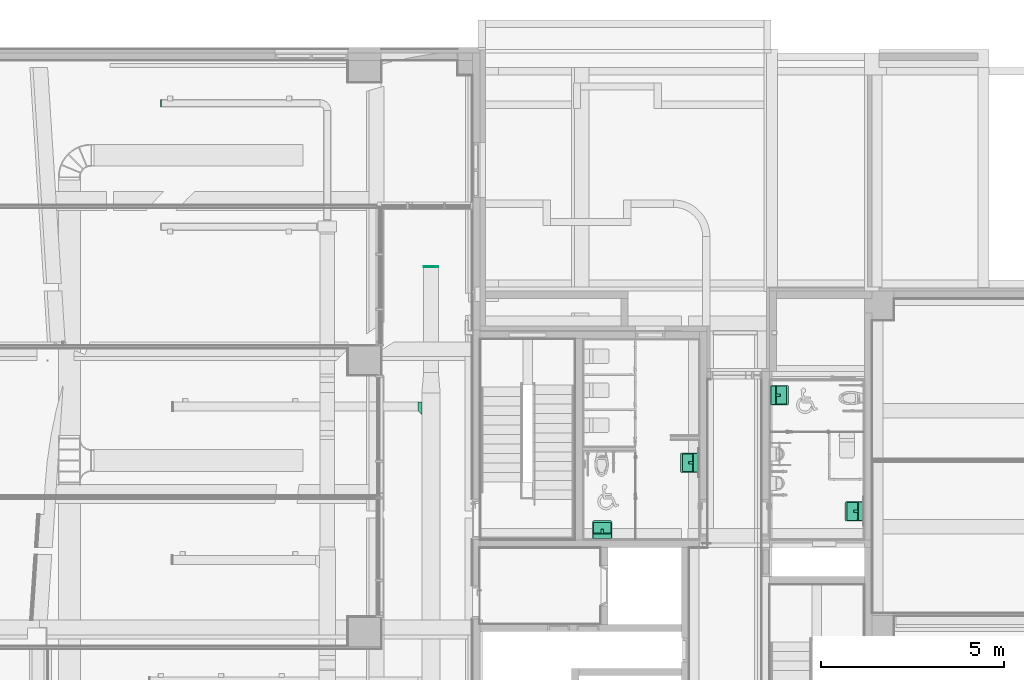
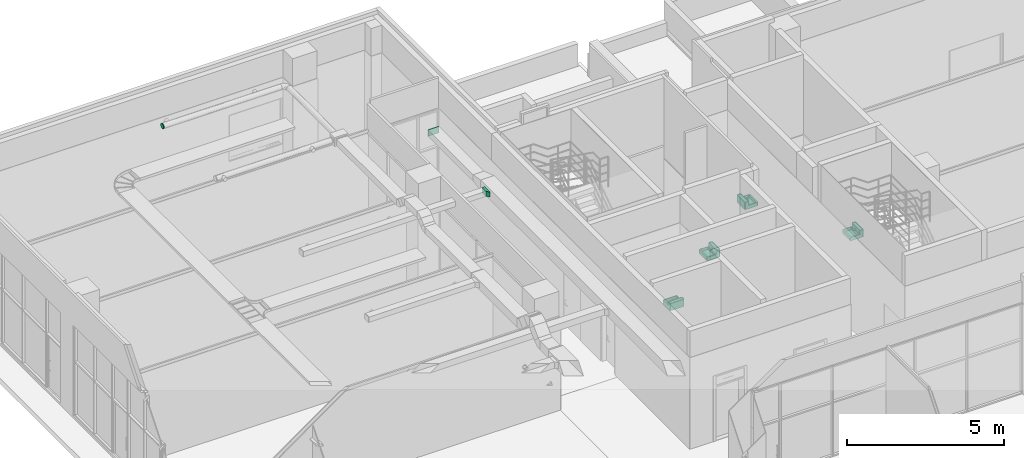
# One storey, part 91 of 100: 4 flow terminals, 3 flow fittings.
"""IFC2X3 building model written with IfcOpenShell, lengths in millimetres."""

from ifc_helpers import new_model, entity, si_unit, converted_unit, derived_unit, direction, frame, frame_2d, origin, place, context, subcontext, project, spatial, polyline, rectangle, circle, outline, extrude, faceted_brep, source, transform, mapped, material, material_list, type_object, type_shapes, element, save


model = new_model("IFC2X3")

# Units and contexts
model_context = context("Model", 3, precision=0.01, world=origin(), true_north=direction((6.123031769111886e-17, 1.0)))
body_context = subcontext(model_context, "Body", "Model", "MODEL_VIEW")
ifc_project = project(units=[si_unit("LENGTHUNIT", "METRE", prefix="MILLI"), si_unit("AREAUNIT", "SQUARE_METRE"), si_unit("VOLUMEUNIT", "CUBIC_METRE"), converted_unit("PLANEANGLEUNIT", "DEGREE", entity("IfcRatioMeasure", 0.017453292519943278), si_unit("PLANEANGLEUNIT", "RADIAN"), dimensions=[0, 0, 0, 0, 0, 0, 0]), si_unit("MASSUNIT", "GRAM", prefix="KILO"), derived_unit("MASSDENSITYUNIT", [(si_unit("MASSUNIT", "GRAM", prefix="KILO"), 1), (si_unit("LENGTHUNIT", "METRE"), -3)]), derived_unit("MOMENTOFINERTIAUNIT", [(si_unit("LENGTHUNIT", "METRE"), 4)]), si_unit("TIMEUNIT", "SECOND"), si_unit("FREQUENCYUNIT", "HERTZ"), si_unit("THERMODYNAMICTEMPERATUREUNIT", "DEGREE_CELSIUS"), derived_unit("THERMALTRANSMITTANCEUNIT", [(si_unit("MASSUNIT", "GRAM", prefix="KILO"), 1), (si_unit("THERMODYNAMICTEMPERATUREUNIT", "KELVIN"), -1), (si_unit("TIMEUNIT", "SECOND"), -3)]), derived_unit("VOLUMETRICFLOWRATEUNIT", [(si_unit("LENGTHUNIT", "METRE"), 3), (si_unit("TIMEUNIT", "SECOND"), -1)]), derived_unit("MASSFLOWRATEUNIT", [(si_unit("MASSUNIT", "GRAM", prefix="KILO"), 1), (si_unit("TIMEUNIT", "SECOND"), -1)]), derived_unit("ROTATIONALFREQUENCYUNIT", [(si_unit("TIMEUNIT", "SECOND"), -1)]), si_unit("ELECTRICCURRENTUNIT", "AMPERE"), si_unit("ELECTRICVOLTAGEUNIT", "VOLT"), si_unit("POWERUNIT", "WATT"), si_unit("FORCEUNIT", "NEWTON", prefix="KILO"), si_unit("ILLUMINANCEUNIT", "LUX"), si_unit("LUMINOUSFLUXUNIT", "LUMEN"), si_unit("LUMINOUSINTENSITYUNIT", "CANDELA"), derived_unit("USERDEFINED", [(si_unit("MASSUNIT", "GRAM", prefix="KILO"), -1), (si_unit("LENGTHUNIT", "METRE"), -2), (si_unit("TIMEUNIT", "SECOND"), 3), (si_unit("LUMINOUSFLUXUNIT", "LUMEN"), 1)]), derived_unit("SOUNDPOWERUNIT", [(si_unit("MASSUNIT", "GRAM", prefix="KILO"), 1), (si_unit("LENGTHUNIT", "METRE"), 2), (si_unit("TIMEUNIT", "SECOND"), -3)]), derived_unit("SOUNDPRESSUREUNIT", [(si_unit("MASSUNIT", "GRAM", prefix="KILO"), 1), (si_unit("LENGTHUNIT", "METRE"), -1), (si_unit("TIMEUNIT", "SECOND"), -2)]), derived_unit("LINEARVELOCITYUNIT", [(si_unit("LENGTHUNIT", "METRE"), 1), (si_unit("TIMEUNIT", "SECOND"), -1)]), si_unit("PRESSUREUNIT", "PASCAL"), derived_unit("USERDEFINED", [(si_unit("LENGTHUNIT", "METRE"), -2), (si_unit("MASSUNIT", "GRAM", prefix="KILO"), 1), (si_unit("TIMEUNIT", "SECOND"), -2)]), derived_unit("LINEARFORCEUNIT", [(si_unit("MASSUNIT", "GRAM", prefix="KILO"), 1), (si_unit("LENGTHUNIT", "METRE"), 1), (si_unit("TIMEUNIT", "SECOND"), -2), (si_unit("LENGTHUNIT", "METRE"), -1)]), derived_unit("PLANARFORCEUNIT", [(si_unit("MASSUNIT", "GRAM", prefix="KILO"), 1), (si_unit("LENGTHUNIT", "METRE"), 1), (si_unit("TIMEUNIT", "SECOND"), -2), (si_unit("LENGTHUNIT", "METRE"), -2)])], contexts=[model_context])

# Site, building, storey, space
site_placement = place(None, frame((-14167.972527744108, -657.2125860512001, 0.0)))
site = spatial("IfcSite", under=ifc_project, at=site_placement, Name="Default", CompositionType="ELEMENT")
building_placement = place(site_placement, origin())
building = spatial("IfcBuilding", under=site, at=building_placement, Name="Sample Building", CompositionType="ELEMENT")
storey_placement = place(building_placement, origin())
storey = spatial("IfcBuildingStorey", under=building, at=storey_placement, Name="지상 1층", CompositionType="ELEMENT", Elevation=0.0)
space_1_placement = place(storey_placement, origin())
space_1 = spatial("IfcSpace", under=storey, at=space_1_placement, Name="170", CompositionType="ELEMENT", InteriorOrExteriorSpace="INTERNAL")

# Flow terminals
ifc_material_1 = material(Name="KBIMS-스테인리스 스틸_도금")
ifc_material_2 = material(Name="KBIMS-도기")
ifc_material_list_1 = material_list([ifc_material_1, ifc_material_2])
ifc_material_list_2 = material_list([ifc_material_1, ifc_material_2])
distribution_element_type = type_object("IfcDistributionElementType", Name="PF411-평면붙임형 세면기:PF411-평면붙임형 세면기", material=ifc_material_list_2)
shared_shape_1 = source(origin(), body_context, "Body", "Brep", [
    faceted_brep([(300.325836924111, 231.5952722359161, 201.9113756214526), (300.325836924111, 231.59527223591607, 190.0), (300.325836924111, 346.5952722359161, 163.45015802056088), (300.325836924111, 346.5952722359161, 210.0), (300.325836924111, 239.68389661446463, 210.0), (300.325836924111, 237.59040657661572, 209.724386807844), (300.325836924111, 235.63958442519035, 208.9163298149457), (300.325836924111, 233.96437546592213, 207.63089676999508), (300.325836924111, 232.67894242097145, 205.9556878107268), (300.325836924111, 231.87088542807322, 204.00486565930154), (232.86470754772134, 231.5952722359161, 201.9113756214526), (232.86470754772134, 231.87088542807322, 204.00486565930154), (232.86470754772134, 232.67894242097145, 205.9556878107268), (232.86470754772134, 233.96437546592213, 207.63089676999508), (232.86470754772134, 235.63958442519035, 208.9163298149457), (232.86470754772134, 237.59040657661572, 209.724386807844), (232.86470754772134, 239.68389661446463, 210.0), (232.86470754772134, 346.5952722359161, 210.0), (232.86470754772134, 346.5952722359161, 163.45015802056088), (232.86470754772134, 231.59527223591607, 190.0)], [[[0, 1, 2, 3, 4, 5, 6, 7, 8, 9]], [[10, 11, 12, 13, 14, 15, 16, 17, 18, 19]], [[5, 4, 16, 15]], [[6, 5, 15, 14]], [[13, 7, 6, 14]], [[9, 8, 12, 11]], [[9, 11, 10, 0]], [[13, 12, 8, 7]], [[1, 0, 10, 19]], [[2, 1, 19, 18]], [[3, 2, 18, 17]], [[4, 3, 17, 16]]]),
    faceted_brep([(526.236288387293, 481.59527223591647, 280.0), (519.8795434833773, 489.87954348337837, 280.0), (513.2459073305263, 474.09527223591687, 280.0), (515.743417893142, 468.0657483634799, 280.0), (530.2323052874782, 471.94803404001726, 280.0), (509.2729417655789, 479.27294176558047, 280.0), (511.59527223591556, 496.2362883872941, 280.0), (504.0952722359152, 483.2459073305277, 280.0), (501.9480340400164, 500.23230528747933, 280.0), (498.0657483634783, 485.74341789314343, 280.0), (491.5952722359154, 501.5952722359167, 280.0), (491.5952722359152, 486.5952722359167, 280.0), (41.59527223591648, 501.5952722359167, 280.0), (41.59527223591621, 486.5952722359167, 280.0), (35.124796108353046, 485.7434178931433, 280.0), (31.242510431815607, 500.2323052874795, 280.0), (29.095272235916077, 483.2459073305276, 280.0), (21.59527223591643, 496.23628838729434, 280.0), (23.9176027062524, 479.2729417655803, 280.0), (13.311000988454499, 489.87954348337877, 280.0), (19.944637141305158, 474.0952722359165, 280.0), (6.95425608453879, 481.59527223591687, 280.0), (17.447126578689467, 468.06574836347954, 280.0), (2.9582391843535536, 471.94803404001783, 280.0), (1.5952722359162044, 461.5952722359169, 280.0), (16.595272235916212, 461.5952722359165, 280.0), (16.595272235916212, 386.59527223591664, 280.0), (1.5952722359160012, 386.5952722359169, 280.0), (17.447126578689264, 380.12479610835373, 280.0), (2.958239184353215, 376.24251043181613, 280.0), (6.954256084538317, 366.595272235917, 280.0), (19.94463714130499, 374.09527223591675, 280.0), (13.311000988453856, 358.3110009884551, 280.0), (23.917602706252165, 368.9176027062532, 280.0), (21.59527223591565, 351.9542560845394, 280.0), (29.095272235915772, 364.94463714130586, 280.0), (31.24251043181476, 347.95823918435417, 280.0), (35.12479610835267, 362.44712657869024, 280.0), (41.59527223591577, 346.59527223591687, 280.0), (41.59527223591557, 361.5952722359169, 280.0), (491.5952722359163, 361.5952722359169, 280.0), (491.595272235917, 346.59527223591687, 280.0), (498.0657483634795, 362.44712657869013, 280.0), (501.9480340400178, 347.9582391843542, 280.0), (504.09527223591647, 364.94463714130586, 280.0), (511.59527223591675, 351.9542560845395, 280.0), (509.2729417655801, 368.91760270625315, 280.0), (519.8795434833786, 358.31100098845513, 280.0), (513.2459073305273, 374.0952722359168, 280.0), (526.236288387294, 366.59527223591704, 280.0), (515.743417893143, 380.1247961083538, 280.0), (530.2323052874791, 376.24251043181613, 280.0), (531.5952722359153, 386.59527223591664, 280.0), (516.5952722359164, 386.59527223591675, 280.0), (531.5952722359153, 461.5952722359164, 280.0), (516.5952722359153, 461.5952722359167, 280.0), (13.311000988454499, 489.87954348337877, 0.0), (21.59527223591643, 496.23628838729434, 0.0), (31.242510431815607, 500.2323052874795, 0.0), (41.59527223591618, 501.5952722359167, 0.0), (491.5952722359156, 501.5952722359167, 0.0), (501.9480340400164, 500.23230528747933, 0.0), (511.59527223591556, 496.2362883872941, 0.0), (519.8795434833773, 489.87954348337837, 0.0), (526.236288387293, 481.59527223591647, 0.0), (530.2323052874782, 471.94803404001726, 0.0), (531.5952722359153, 461.5952722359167, 0.0), (531.5952722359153, 41.59527223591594, 0.0), (530.232305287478, 31.2425104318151, 0.0), (526.2362883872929, 21.595272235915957, 0.0), (519.8795434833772, 13.31100098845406, 0.0), (511.5952722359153, 6.954256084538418, 0.0), (501.9480340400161, 2.958239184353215, 0.0), (491.5952722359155, 1.5952722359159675, 0.0), (41.59527223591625, 1.5952722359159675, 0.0), (31.242510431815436, 2.9582391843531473, 0.0), (21.595272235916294, 6.9542560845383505, 0.0), (13.311000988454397, 13.311000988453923, 0.0), (6.954256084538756, 21.59527223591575, 0.0), (2.95823918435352, 31.242510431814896, 0.0), (1.5952722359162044, 41.5952722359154, 0.0), (1.5952722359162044, 461.595272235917, 0.0), (2.9582391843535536, 471.94803404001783, 0.0), (6.95425608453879, 481.59527223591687, 0.0), (1.5952722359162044, 41.59527223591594, 135.0), (1.5952722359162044, 386.59527223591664, 135.0), (2.9582391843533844, 31.242510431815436, 135.0), (6.954256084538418, 21.59527223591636, 135.0), (13.311000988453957, 13.311000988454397, 135.0), (21.595272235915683, 6.954256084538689, 135.0), (31.242510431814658, 2.958239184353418, 135.0), (41.59527223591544, 1.5952722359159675, 135.0), (491.59527223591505, 1.5952722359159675, 135.0), (501.9480340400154, 2.9582391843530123, 135.0), (511.59527223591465, 6.954256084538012, 135.0), (519.8795434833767, 13.31100098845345, 135.0), (526.2362883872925, 21.59527223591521, 135.0), (530.2323052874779, 31.242510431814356, 135.0), (531.5952722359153, 41.59527223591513, 135.0), (531.5952722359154, 386.59527223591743, 135.0), (22.457263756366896, 313.81753553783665, 135.0), (6.954256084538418, 366.59527223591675, 135.0), (2.958239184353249, 376.2425104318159, 135.0), (13.31100098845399, 358.3110009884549, 135.0), (23.138747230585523, 318.993916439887, 135.0), (22.457263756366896, 75.92091166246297, 135.0), (25.13675568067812, 323.8175355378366, 135.0), (21.59527223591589, 351.9542560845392, 135.0), (28.315128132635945, 327.9596711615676, 135.0), (31.242510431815, 347.9582391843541, 135.0), (32.45726375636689, 331.13804361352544, 135.0), (37.28088285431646, 333.13605206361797, 135.0), (41.59527223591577, 346.59527223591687, 135.0), (42.45726375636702, 333.8175355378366, 135.0), (266.5952722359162, 333.8175355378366, 135.0), (491.5952722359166, 346.59527223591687, 135.0), (490.73328071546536, 333.8175355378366, 135.0), (495.90966161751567, 333.136052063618, 135.0), (501.9480340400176, 347.9582391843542, 135.0), (500.73328071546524, 331.13804361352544, 135.0), (504.8754163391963, 327.9596711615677, 135.0), (511.59527223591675, 351.9542560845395, 135.0), (508.05378879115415, 323.8175355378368, 135.0), (519.8795434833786, 358.31100098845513, 135.0), (510.0517972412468, 318.9939164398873, 135.0), (510.7332807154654, 313.81753553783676, 135.0), (526.236288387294, 366.5952722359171, 135.0), (530.2323052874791, 376.2425104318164, 135.0), (510.7332807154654, 75.92091166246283, 135.0), (510.0517972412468, 70.74453076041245, 135.0), (508.05378879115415, 65.92091166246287, 135.0), (504.8754163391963, 61.77877603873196, 135.0), (500.73328071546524, 58.60040358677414, 135.0), (495.90966161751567, 56.60239513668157, 135.0), (490.73328071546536, 55.920911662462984, 135.0), (266.5952722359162, 55.920911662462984, 135.0), (42.457263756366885, 55.920911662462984, 135.0), (37.28088285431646, 56.60239513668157, 135.0), (32.45726375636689, 58.600403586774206, 135.0), (28.315128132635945, 61.778776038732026, 135.0), (25.13675568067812, 65.92091166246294, 135.0), (23.138747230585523, 70.74453076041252, 135.0), (35.124796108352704, 362.44712657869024, 263.25881706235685), (41.59527223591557, 361.5952722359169, 263.25881706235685), (491.5952722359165, 361.5952722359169, 263.25881706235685), (498.06574836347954, 362.44712657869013, 263.25881706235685), (504.09527223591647, 364.94463714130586, 263.25881706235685), (509.2729417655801, 368.91760270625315, 263.25881706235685), (513.2459073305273, 374.09527223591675, 263.25881706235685), (515.743417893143, 380.1247961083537, 263.25881706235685), (516.5952722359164, 386.59527223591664, 263.25881706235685), (516.5952722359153, 461.5952722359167, 263.25881706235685), (515.7434178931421, 468.0657483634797, 263.25881706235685), (513.2459073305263, 474.0952722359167, 263.25881706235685), (509.27294176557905, 479.27294176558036, 263.25881706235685), (504.0952722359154, 483.24590733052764, 263.25881706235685), (498.0657483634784, 485.7434178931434, 263.25881706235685), (491.5952722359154, 486.5952722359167, 263.25881706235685), (41.59527223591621, 486.5952722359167, 263.25881706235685), (35.12479610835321, 485.7434178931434, 263.25881706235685), (29.095272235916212, 483.24590733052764, 263.25881706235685), (23.917602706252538, 479.27294176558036, 263.25881706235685), (19.94463714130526, 474.0952722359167, 263.25881706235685), (17.4471265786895, 468.06574836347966, 263.25881706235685), (16.595272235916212, 461.5952722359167, 263.25881706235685), (16.59527223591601, 386.59527223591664, 263.25881706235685), (17.447126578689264, 380.12479610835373, 263.25881706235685), (19.94463714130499, 374.09527223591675, 263.25881706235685), (23.917602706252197, 368.91760270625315, 263.25881706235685), (29.095272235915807, 364.94463714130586, 263.25881706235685), (28.31512813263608, 327.95967116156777, 30.152650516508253), (25.136755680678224, 323.8175355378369, 30.152650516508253), (23.13874723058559, 318.9939164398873, 30.152650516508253), (22.457263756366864, 313.81753553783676, 30.152650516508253), (22.457263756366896, 75.92091166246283, 30.152650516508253), (23.138747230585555, 70.74453076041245, 30.152650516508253), (25.136755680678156, 65.92091166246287, 30.152650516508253), (28.315128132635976, 61.77877603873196, 30.152650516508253), (32.45726375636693, 58.60040358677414, 30.152650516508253), (37.280882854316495, 56.60239513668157, 30.152650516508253), (42.457263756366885, 55.920911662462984, 30.152650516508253), (266.5952722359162, 55.920911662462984, 30.152650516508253), (490.7332807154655, 55.920911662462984, 30.152650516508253), (495.90966161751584, 56.60239513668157, 30.152650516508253), (500.7332807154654, 58.60040358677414, 30.152650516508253), (504.8754163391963, 61.77877603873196, 30.152650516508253), (508.05378879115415, 65.92091166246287, 30.152650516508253), (510.0517972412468, 70.74453076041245, 30.152650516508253), (510.7332807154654, 75.92091166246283, 30.152650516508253), (510.7332807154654, 313.81753553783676, 30.152650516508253), (510.0517972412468, 318.99391643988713, 30.152650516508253), (508.05378879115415, 323.8175355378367, 30.152650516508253), (504.8754163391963, 327.95967116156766, 30.152650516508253), (500.7332807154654, 331.13804361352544, 30.152650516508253), (495.90966161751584, 333.13605206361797, 30.152650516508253), (490.7332807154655, 333.8175355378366, 30.152650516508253), (266.5952722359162, 333.8175355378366, 30.152650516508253), (42.45726375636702, 333.8175355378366, 30.152650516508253), (37.28088285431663, 333.136052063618, 30.152650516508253), (32.45726375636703, 331.13804361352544, 30.152650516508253)], [[[0, 1, 2]], [[0, 2, 3]], [[4, 0, 3]], [[2, 1, 5]], [[6, 5, 1]], [[7, 5, 6]], [[7, 6, 8]], [[7, 8, 9]], [[9, 8, 10]], [[11, 9, 10]], [[10, 12, 11]], [[12, 13, 11]], [[14, 13, 12]], [[14, 12, 15]], [[14, 15, 16]], [[16, 15, 17]], [[18, 16, 17]], [[17, 19, 18]], [[19, 20, 18]], [[20, 19, 21]], [[20, 21, 22]], [[22, 21, 23]], [[23, 24, 22]], [[25, 22, 24]], [[25, 24, 26]], [[27, 26, 24]], [[28, 26, 27]], [[28, 27, 29]], [[28, 29, 30]], [[30, 31, 28]], [[32, 31, 30]], [[31, 32, 33]], [[33, 32, 34]], [[35, 33, 34]], [[35, 34, 36]], [[37, 35, 36]], [[38, 37, 36]], [[39, 37, 38]], [[39, 38, 40]], [[41, 40, 38]], [[40, 41, 42]], [[41, 43, 42]], [[44, 42, 43]], [[45, 44, 43]], [[46, 44, 45]], [[46, 45, 47]], [[47, 48, 46]], [[48, 47, 49]], [[50, 48, 49]], [[51, 50, 49]], [[52, 50, 51]], [[52, 53, 50]], [[53, 52, 54]], [[54, 4, 3]], [[3, 55, 54]], [[54, 55, 53]], [[56, 57, 58, 59, 60, 61, 62, 63, 64, 65, 66, 67, 68, 69, 70, 71, 72, 73, 74, 75, 76, 77, 78, 79, 80, 81, 82, 83]], [[12, 10, 60, 59]], [[15, 58, 57, 17]], [[17, 57, 56, 19]], [[59, 58, 15, 12]], [[21, 83, 82, 23]], [[23, 82, 81, 24]], [[19, 56, 83, 21]], [[24, 81, 80, 84, 85, 27]], [[86, 79, 78, 87]], [[87, 78, 77, 88]], [[80, 79, 86, 84]], [[89, 76, 75, 90]], [[90, 75, 74, 91]], [[88, 77, 76, 89]], [[92, 91, 74, 73]], [[93, 72, 71, 94]], [[94, 71, 70, 95]], [[73, 72, 93, 92]], [[96, 69, 68, 97]], [[97, 68, 67, 98]], [[95, 70, 69, 96]], [[54, 52, 99, 98, 67, 66]], [[4, 65, 64, 0]], [[0, 64, 63, 1]], [[66, 65, 4, 54]], [[6, 62, 61, 8]], [[8, 61, 60, 10]], [[1, 63, 62, 6]], [[100, 101, 102]], [[101, 100, 103]], [[103, 100, 104]], [[84, 100, 102]], [[100, 84, 105]], [[106, 103, 104]], [[106, 107, 103]], [[108, 107, 106]], [[109, 107, 108]], [[110, 109, 108]], [[109, 110, 111]], [[112, 109, 111]], [[113, 112, 111]], [[114, 112, 113]], [[115, 112, 114]], [[114, 116, 115]], [[115, 116, 117]], [[118, 115, 117]], [[119, 118, 117]], [[118, 119, 120]], [[120, 121, 118]], [[121, 120, 122]], [[122, 123, 121]], [[123, 122, 124]], [[123, 124, 125]], [[126, 123, 125]], [[125, 127, 126]], [[127, 125, 98]], [[128, 98, 125]], [[98, 128, 129]], [[129, 130, 98]], [[98, 130, 131]], [[131, 132, 98]], [[132, 97, 98]], [[132, 133, 97]], [[97, 133, 96]], [[96, 133, 95]], [[94, 95, 133]], [[134, 94, 133]], [[93, 94, 134]], [[93, 134, 92]], [[134, 135, 92]], [[92, 135, 91]], [[91, 135, 136]], [[136, 90, 91]], [[90, 136, 89]], [[137, 89, 136]], [[89, 137, 88]], [[137, 87, 88]], [[137, 86, 87]], [[138, 86, 137]], [[138, 84, 86]], [[139, 84, 138]], [[140, 84, 139]], [[140, 141, 84]], [[141, 105, 84]], [[98, 99, 127]], [[84, 102, 85]], [[115, 41, 38, 112]], [[109, 112, 38, 36]], [[107, 109, 36, 34]], [[34, 32, 103, 107]], [[102, 101, 30, 29]], [[85, 102, 29, 27]], [[32, 30, 101, 103]], [[127, 99, 52, 51]], [[126, 127, 51, 49]], [[49, 47, 123, 126]], [[118, 121, 45, 43]], [[115, 118, 43, 41]], [[47, 45, 121, 123]], [[142, 143, 144, 145, 146, 147, 148, 149, 150, 151, 152, 153, 154, 155, 156, 157, 158, 159, 160, 161, 162, 163, 164, 165, 166, 167, 168, 169]], [[164, 25, 26, 165]], [[166, 165, 26, 28]], [[167, 166, 28, 31]], [[167, 31, 33, 168]], [[169, 168, 33, 35]], [[142, 169, 35, 37]], [[142, 37, 39, 143]], [[143, 39, 40, 144]], [[145, 144, 40, 42]], [[146, 145, 42, 44]], [[146, 44, 46, 147]], [[148, 147, 46, 48]], [[149, 148, 48, 50]], [[149, 50, 53, 150]], [[150, 53, 55, 151]], [[152, 151, 55, 3]], [[153, 152, 3, 2]], [[153, 2, 5, 154]], [[155, 154, 5, 7]], [[9, 156, 155, 7]], [[9, 11, 157, 156]], [[157, 11, 13, 158]], [[159, 158, 13, 14]], [[160, 159, 14, 16]], [[160, 16, 18, 161]], [[162, 161, 18, 20]], [[163, 162, 20, 22]], [[163, 22, 25, 164]], [[170, 171, 172, 173, 174, 175, 176, 177, 178, 179, 180, 181, 182, 183, 184, 185, 186, 187, 188, 189, 190, 191, 192, 193, 194, 195, 196, 197, 198, 199]], [[196, 195, 116, 114, 113, 197]], [[199, 198, 111, 110]], [[170, 199, 110, 108]], [[113, 111, 198, 197]], [[172, 171, 106, 104]], [[173, 172, 104, 100]], [[106, 171, 170, 108]], [[173, 100, 105, 174]], [[176, 175, 141, 140]], [[177, 176, 140, 139]], [[105, 141, 175, 174]], [[179, 178, 138, 137]], [[180, 179, 137, 136]], [[138, 178, 177, 139]], [[180, 136, 135, 134, 182, 181]], [[184, 183, 133, 132]], [[185, 184, 132, 131]], [[134, 133, 183, 182]], [[187, 186, 130, 129]], [[188, 187, 129, 128]], [[130, 186, 185, 131]], [[188, 128, 125, 189]], [[122, 120, 192, 191]], [[124, 190, 189, 125]], [[191, 190, 124, 122]], [[194, 193, 119, 117]], [[195, 194, 117, 116]], [[119, 193, 192, 120]]]),
])
type_shapes(distribution_element_type, [shared_shape_1])
flow_terminal_1_placement = place(space_1_placement, frame((33872.799922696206, 22988.807575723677, 85.0), z_axis=(0.0, 0.0, 1.0), x_axis=(-1.0, 0.0, 0.0)))
element("IfcFlowTerminal", 1, at=flow_terminal_1_placement, inside=space_1, type_object=distribution_element_type, material=ifc_material_list_1, Name="PF411-평면붙임형 세면기:PF411-평면붙임형 세면기", ObjectType="PF411-평면붙임형 세면기:PF411-평면붙임형 세면기", context=body_context, shape_type="MappedRepresentation", body=[
    mapped(shared_shape_1, transform((0.0, 0.0, 0.0), scale=1.0)),
])
ifc_material_list_3 = material_list([ifc_material_1, ifc_material_2])
flow_terminal_2_placement = place(space_1_placement, frame((35736.36848278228, 24833.90833582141, 85.0), z_axis=(0.0, 0.0, 1.0), x_axis=(0.0, -1.0, 0.0)))
element("IfcFlowTerminal", 2, at=flow_terminal_2_placement, inside=space_1, type_object=distribution_element_type, material=ifc_material_list_3, Name="PF411-평면붙임형 세면기:PF411-평면붙임형 세면기", ObjectType="PF411-평면붙임형 세면기:PF411-평면붙임형 세면기", context=body_context, shape_type="MappedRepresentation", body=[
    mapped(shared_shape_1, transform((0.0, 0.0, 0.0), scale=1.0)),
])

# Space
space_2_placement = place(storey_placement, origin())
space_2 = spatial("IfcSpace", under=storey, at=space_2_placement, Name="171", CompositionType="ELEMENT", InteriorOrExteriorSpace="INTERNAL")

# Flow terminals
ifc_material_list_4 = material_list([ifc_material_1, ifc_material_2])
flow_terminal_3_placement = place(space_2_placement, frame((40236.3684827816, 23508.80757406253, 85.0), z_axis=(0.0, 0.0, 1.0), x_axis=(0.0, -1.0, 0.0)))
element("IfcFlowTerminal", 3, at=flow_terminal_3_placement, inside=space_2, type_object=distribution_element_type, material=ifc_material_list_4, Name="PF411-평면붙임형 세면기:PF411-평면붙임형 세면기", ObjectType="PF411-평면붙임형 세면기:PF411-평면붙임형 세면기", context=body_context, shape_type="MappedRepresentation", body=[
    mapped(shared_shape_1, transform((0.0, 0.0, 0.0), scale=1.0)),
])
ifc_material_list_5 = material_list([ifc_material_1, ifc_material_2])
flow_terminal_4_placement = place(space_2_placement, frame((38699.559070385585, 26147.154047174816, 85.0), z_axis=(0.0, 0.0, 1.0), x_axis=(0.0, 1.0, 0.0)))
element("IfcFlowTerminal", 4, at=flow_terminal_4_placement, inside=space_2, type_object=distribution_element_type, material=ifc_material_list_5, Name="PF411-평면붙임형 세면기:PF411-평면붙임형 세면기", ObjectType="PF411-평면붙임형 세면기:PF411-평면붙임형 세면기", context=body_context, shape_type="MappedRepresentation", body=[
    mapped(shared_shape_1, transform((0.0, 0.0, 0.0), scale=1.0)),
])

# Flow fittings
ifc_material_3 = material(Name="<Unnamed>")
duct_fitting_type_1 = type_object("IfcDuctFittingType", Name="M_원형 끝마감:RA", PredefinedType="NOTDEFINED", material=ifc_material_3)
shared_shape_2 = source(origin(), body_context, "Body", "SweptSolid", [
    extrude(circle(Radius=99.99999999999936, at=frame_2d((2.322114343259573e-13, -2.5119270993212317e-13), x_axis=(1.0, 0.0))), frame((0.0, 0.0, 0.0), z_axis=(1.0, 0.0, 0.0), x_axis=(0.0, 1.0, 0.0)), (0.0, 0.0, 1.0), 25.000000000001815),
])
type_shapes(duct_fitting_type_1, [shared_shape_2])
flow_fitting_1_placement = place(storey_placement, frame((21572.762519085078, 34383.3712957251, 4180.0), z_axis=(0.0, 0.0, 1.0), x_axis=(-1.0, 0.0, 0.0)))
element("IfcFlowFitting", 5, at=flow_fitting_1_placement, inside=storey, type_object=duct_fitting_type_1, material=ifc_material_3, Name="M_원형 끝마감:RA", ObjectType="M_원형 끝마감:RA", context=body_context, shape_type="MappedRepresentation", body=[
    mapped(shared_shape_2, transform((0.0, 0.0, 0.0), scale=1.0)),
])
duct_fitting_type_2 = type_object("IfcDuctFittingType", Name="M_직사각형 탭 - 베벨:SA", PredefinedType="NOTDEFINED", material=ifc_material_3)
shared_shape_3 = source(origin(), body_context, "Body", "SweptSolid", [
    extrude(outline(polyline([(-62.43839999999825, -190.0), (43.657600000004, -190.0), (43.657600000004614, 160.0), (37.561600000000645, 160.0), (-62.43839999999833, 60.0), (-62.43839999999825, -190.0)])), frame((37.56160000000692, -65.0, -100.0), z_axis=(0.0, 0.0, 1.0), x_axis=(-1.0, 0.0, 0.0)), (0.0, 0.0, 1.0), 199.99999999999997),
])
type_shapes(duct_fitting_type_2, [shared_shape_3])
flow_fitting_2_placement = place(storey_placement, frame((28682.150815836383, 26102.051180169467, 4180.0), z_axis=(0.0, 0.0, -1.0), x_axis=(-1.0, 0.0, 0.0)))
element("IfcFlowFitting", 6, at=flow_fitting_2_placement, inside=storey, type_object=duct_fitting_type_2, material=ifc_material_3, Name="M_직사각형 탭 - 베벨:SA", ObjectType="M_직사각형 탭 - 베벨:SA", context=body_context, shape_type="MappedRepresentation", body=[
    mapped(shared_shape_3, transform((0.0, 0.0, 0.0), scale=1.0)),
])
duct_fitting_type_3 = type_object("IfcDuctFittingType", Name="M_직사각형 끝마감:SA", PredefinedType="NOTDEFINED", material=ifc_material_3)
shared_shape_4 = source(origin(), body_context, "Body", "SweptSolid", [
    extrude(rectangle(XDim=25.000000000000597, YDim=400.0, at=frame_2d((8.881784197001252e-16, 0.0), x_axis=(1.0, 0.0))), frame((12.500000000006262, 0.0, -125.0)), (0.0, 0.0, 1.0), 250.00000000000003),
])
type_shapes(duct_fitting_type_3, [shared_shape_4])
flow_fitting_3_placement = place(storey_placement, frame((28932.150815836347, 29903.928286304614, 4105.0), z_axis=(0.0, 0.0, 1.0), x_axis=(0.0, 1.0, 0.0)))
element("IfcFlowFitting", 7, at=flow_fitting_3_placement, inside=storey, type_object=duct_fitting_type_3, material=ifc_material_3, Name="M_직사각형 끝마감:SA", ObjectType="M_직사각형 끝마감:SA", context=body_context, shape_type="MappedRepresentation", body=[
    mapped(shared_shape_4, transform((0.0, 0.0, 0.0), scale=1.0)),
])

save(model, "model.ifc")
